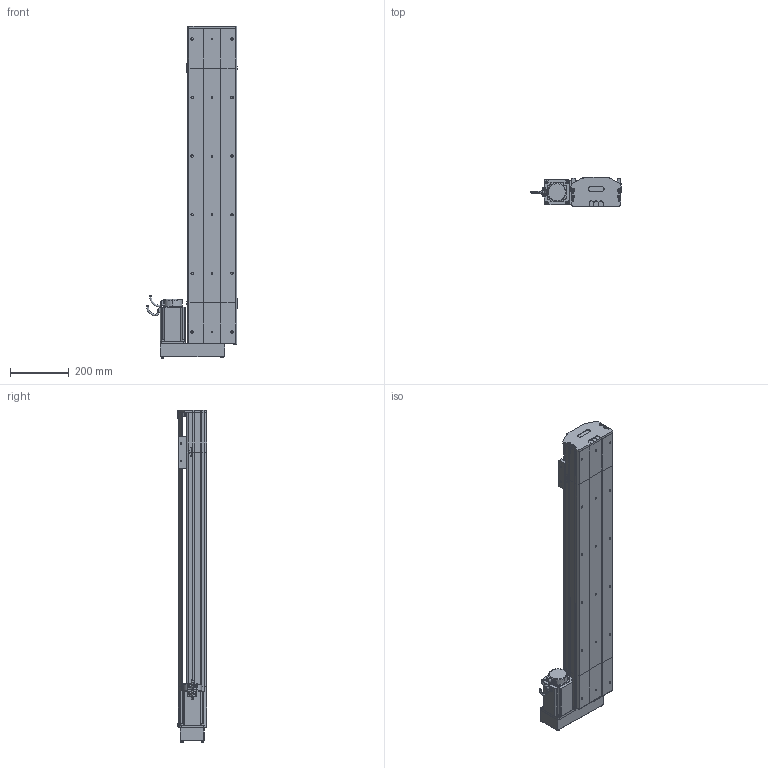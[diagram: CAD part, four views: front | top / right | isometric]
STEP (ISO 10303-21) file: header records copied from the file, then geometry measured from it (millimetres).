
FILE_DESCRIPTION (( 'STEP AP214' ), '1' );
FILE_NAME ('D17 TSN BR S800.STEP', '2010-06-30T07:42:47', ( 'Christophe Gaillard' ), ( 'SGA' ), 'SwSTEP 2.0', 'SolidWorks 2010', '' );
FILE_SCHEMA (( 'AUTOMOTIVE_DESIGN' ));
Length unit declared in the file: millimetre
Products named in the file (33): head BR_Default; couvercle D17 head_Default; vis M5 L25_Default; vis M5 L8 90°_Default; tete d''axe bas D17; plaque de  bout tail D17_Default; corpl tail D17_Default; couvercle D17_Default; Arbre+rail tail D17; tete d''axe haut D17; Tail D17_Default; corpl head D17 BM_Default; Arbre+rail head D17; plaque de  bout BM head D17_Default; vis M5 L5_Default; Moteur motionking 90BLDC125A-640; codeur 90BLDC125-640; corps 90BLDC125A-640; avant 90BLDC125A-640; chariot D17 TSN; Cvis M5 L70_Default; vis M5 L12_Default; guide D17; Chariot D17 TBN; Conecteur2_Default; renvoi BR_Default; Vis M5 L16-2_Default; Conecteur_Default; D17 TSN BR S800; course 800 D17_Default; couvercle D17 course L800_Default; corp D17 800_Default; arbre + rail D17 Course 800 
Assembly tree (51 placements, depth 4):
  D17 TSN BR S800
    Tail D17_Default
      vis M5 L12_Default  x4
      vis M5 L25_Default  x2
      tete d''axe haut D17
      vis M5 L8 90°_Default  x2
      Arbre+rail tail D17
      couvercle D17_Default
      tete d''axe bas D17
      plaque de  bout tail D17_Default
      corpl tail D17_Default
    head BR_Default
      vis M5 L12_Default  x8
      couvercle D17 head_Default
      Moteur motionking 90BLDC125A-640
        Conecteur2_Default
        codeur 90BLDC125-640
        corps 90BLDC125A-640
        Conecteur_Default
        avant 90BLDC125A-640
      Cvis M5 L70_Default  x2
      Arbre+rail head D17
      vis M5 L5_Default  x2
      Vis M5 L16-2_Default  x4
      corpl head D17 BM_Default
      plaque de  bout BM head D17_Default
      renvoi BR_Default
    chariot D17 TSN
      guide D17  x2
      Chariot D17 TBN
    course 800 D17_Default
      couvercle D17 course L800_Default
      arbre + rail D17 Course 800 
      corp D17 800_Default
Bounding box: 308.95 x 99.7 x 1132.7 mm (x, y, z)
Volume: 7586509.3 mm3; surface area: 1923832.7 mm2
Topology: 75 solids, 75 shells, 2129 faces, 5395 edges, 3488 vertices
Faces by surface type: plane 1322, cylinder 546, bspline 136, torus 65, cone 56, sphere 4
Entity records: 71328 total; most frequent: CARTESIAN_POINT 22564, ORIENTED_EDGE 8698, DIRECTION 8114, EDGE_CURVE 4349, LINE 3026, VECTOR 3026, VERTEX_POINT 2854, AXIS2_PLACEMENT_3D 2544
